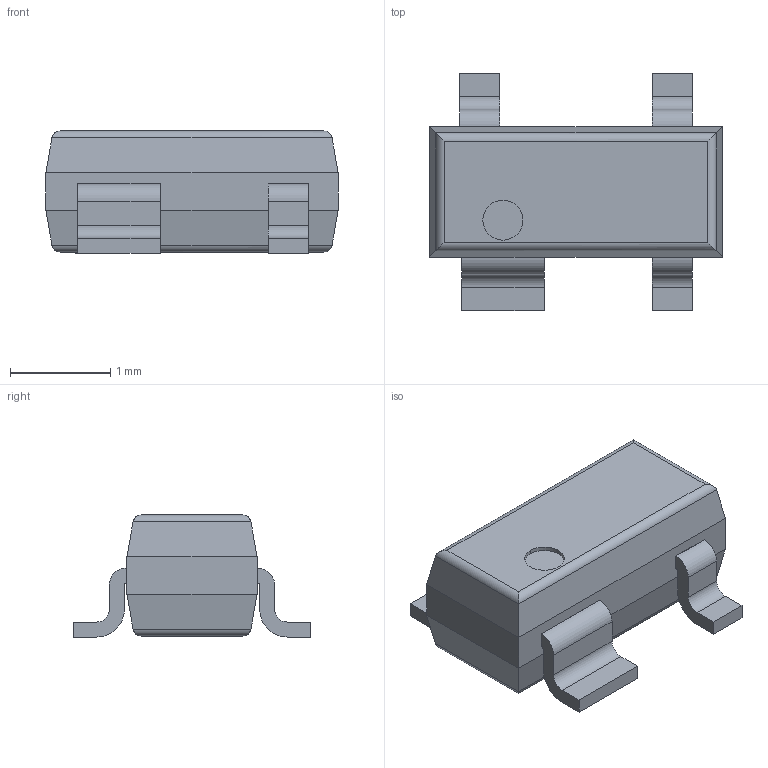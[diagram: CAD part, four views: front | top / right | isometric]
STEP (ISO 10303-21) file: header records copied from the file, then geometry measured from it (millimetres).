
FILE_DESCRIPTION (( 'STEP AP214' ), '1' );
FILE_NAME ( 'SOT143-4P192_237X122L40X40.STEP', '2021-10-06T06:48:57', ( '' ), ( '' ), '', '©2017 PCB Libraries, Inc.', '' );
FILE_SCHEMA (( 'AUTOMOTIVE_DESIGN' ));
Length unit declared in the file: millimetre
Products named in the file (1): SOT143-4P192_237X122L40X40
Bounding box: 2.92 x 2.37 x 1.22 mm (x, y, z)
Volume: 4.6 mm3; surface area: 21.7 mm2
Topology: 5 solids, 5 shells, 81 faces, 194 edges, 124 vertices
Faces by surface type: plane 55, cylinder 26
Entity records: 2469 total; most frequent: CARTESIAN_POINT 424, ORIENTED_EDGE 388, DIRECTION 386, EDGE_CURVE 194, VECTOR 150, LINE 150, VERTEX_POINT 124, AXIS2_PLACEMENT_3D 118
